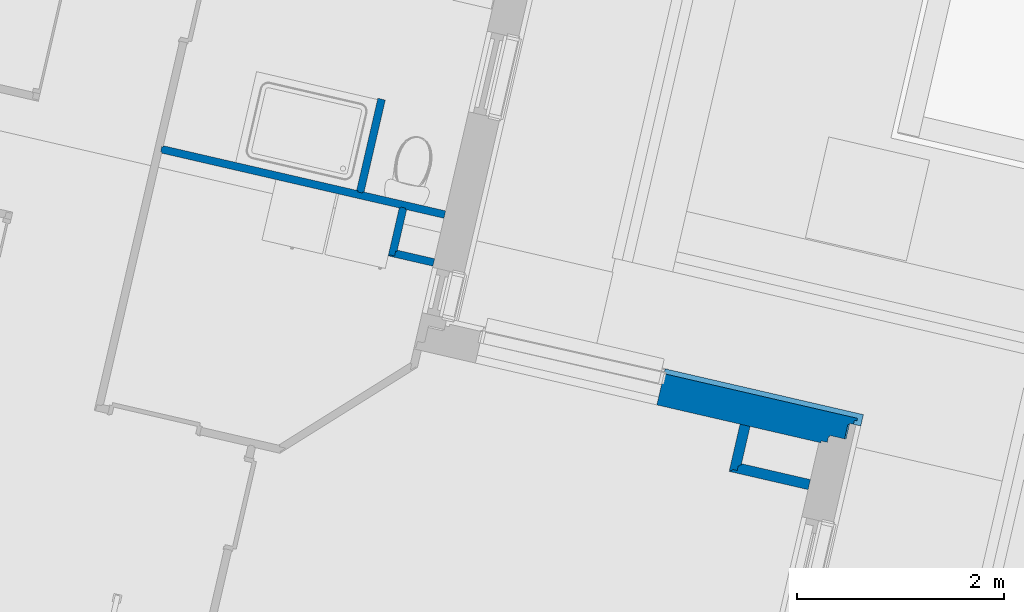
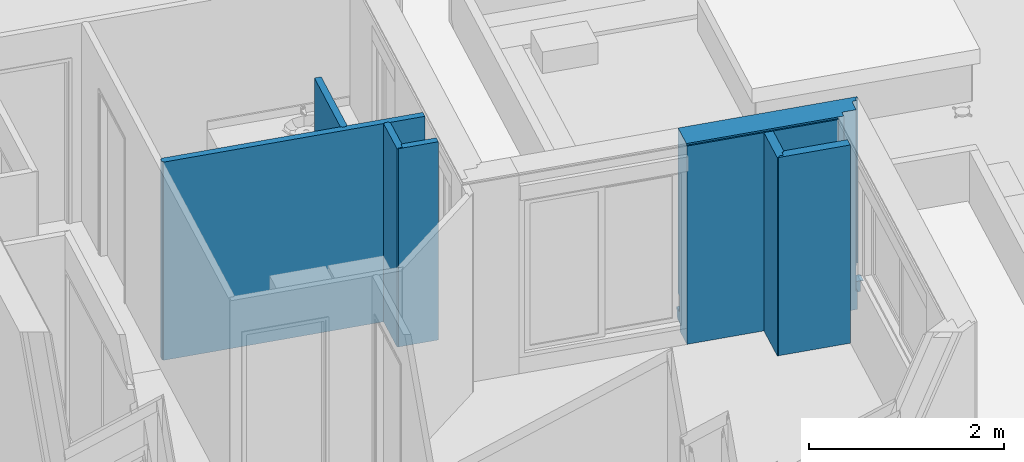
# One storey, part 10 of 47: 7 walls.
"""IFC2X3 building model written with IfcOpenShell, lengths in metres."""

import ifcopenshell
import ifcopenshell.guid

model = None  # the IFC model being written
_history = None  # IfcOwnerHistory: only IFC2X3 demands one
_inside = {}  # id of a spatial element -> (the spatial element, [elements in it])
_under = {}  # id of a project, library or spatial element -> (it, [spatial elements below it])
_declared = {}  # id of a project -> (the project, [libraries it declares])
_typed = {}  # id of a type object -> (the type object, [elements of that type])
_made_of = {}  # id of a material, layer set ... -> (it, [elements and type objects made of it])


def new_model(schema):
    """Start an empty IFC model of exactly this schema.

    Asked for "IFC4X3", IfcOpenShell would pick the latest addendum, in which some entities
    have other attributes; the version numbers below select the first issue.
    IFC2X3 requires an IfcOwnerHistory on every rooted entity: one is made here for all.
    """
    global model, _history
    if schema == "IFC4X3":
        model = ifcopenshell.file(schema_version=(4, 3, 0, 0))
    else:
        model = ifcopenshell.file(schema=schema)
    _inside.clear()
    _under.clear()
    _declared.clear()
    _typed.clear()
    _made_of.clear()
    _history = None
    if model.schema == "IFC2X3":
        org = make("IfcOrganization", Name="unknown")
        user = make(
            "IfcPersonAndOrganization",
            ThePerson=make("IfcPerson", FamilyName="unknown"),
            TheOrganization=org,
        )
        app = make(
            "IfcApplication",
            ApplicationDeveloper=org,
            Version="unknown",
            ApplicationFullName="unknown",
            ApplicationIdentifier="unknown",
        )
        _history = make(
            "IfcOwnerHistory",
            OwningUser=user,
            OwningApplication=app,
            ChangeAction="ADDED",
            CreationDate=0,
        )
    return model


def make(cls, **values):
    """One entity of the class cls with the attributes given. An attribute that is None is left unset."""
    return model.create_entity(
        cls, **{name: value for name, value in values.items() if value is not None}
    )


def entity(cls, *values):
    """Any entity or typed value of the class cls, its attributes in the order of the schema. None: left unset."""
    e = model.create_entity(cls)
    for i, value in enumerate(values):
        if value is not None:
            e[i] = value
    return e


def rooted(cls, **values):
    """An entity with a GlobalId (a new one), such as an element, a storey or a relation."""
    return make(cls, GlobalId=ifcopenshell.guid.new(), OwnerHistory=_history, **values)


def si_unit(unit_type, name, prefix=None):
    """IfcSIUnit, for example si_unit("LENGTHUNIT", "METRE", prefix="MILLI")."""
    return make("IfcSIUnit", UnitType=unit_type, Prefix=prefix, Name=name)


def converted_unit(unit_type, name, factor, base, dimensions=None, offset=None):
    """IfcConversionBasedUnit, such as the inch: factor (a typed value) times the base unit."""
    return make(
        "IfcConversionBasedUnit"
        if offset is None
        else "IfcConversionBasedUnitWithOffset",
        ConversionOffset=offset,
        Dimensions=None
        if dimensions is None
        else entity("IfcDimensionalExponents", *dimensions),
        UnitType=unit_type,
        Name=name,
        ConversionFactor=make(
            "IfcMeasureWithUnit", ValueComponent=factor, UnitComponent=base
        ),
    )


def derived_unit(unit_type, elements):
    """IfcDerivedUnit: a product of units, each with its exponent."""
    return make(
        "IfcDerivedUnit",
        Elements=[
            make("IfcDerivedUnitElement", Unit=unit, Exponent=power)
            for unit, power in elements
        ],
        UnitType=unit_type,
    )


def money_unit(currency):
    """IfcMonetaryUnit."""
    return make("IfcMonetaryUnit", Currency=currency)


def assignment(units):
    """IfcUnitAssignment: the units of a project."""
    return None if units is None else make("IfcUnitAssignment", Units=units)


def point(xyz):
    """IfcCartesianPoint."""
    return None if xyz is None else make("IfcCartesianPoint", Coordinates=xyz)


def direction(xyz):
    """IfcDirection."""
    return None if xyz is None else make("IfcDirection", DirectionRatios=xyz)


def frame(location, z_axis=None, x_axis=None):
    """IfcAxis2Placement3D, a coordinate frame: its origin and axes. An axis left out is left unset."""
    return make(
        "IfcAxis2Placement3D",
        Location=point(location),
        Axis=direction(z_axis),
        RefDirection=direction(x_axis),
    )


def origin_with_axes():
    """The frame at (0, 0, 0) with the z axis (0, 0, 1) and the x axis (1, 0, 0) written out."""
    return frame((0.0, 0.0, 0.0), z_axis=(0.0, 0.0, 1.0), x_axis=(1.0, 0.0, 0.0))


def place(relative_to, where):
    """IfcLocalPlacement: puts the frame where relative to a parent placement (None: the world)."""
    return make(
        "IfcLocalPlacement", PlacementRelTo=relative_to, RelativePlacement=where
    )


def context(
    kind, dimensions, precision=None, world=None, true_north=None, identifier=None
):
    """IfcGeometricRepresentationContext, for example the 3D "Model" context."""
    return make(
        "IfcGeometricRepresentationContext",
        ContextIdentifier=identifier,
        ContextType=kind,
        CoordinateSpaceDimension=dimensions,
        Precision=precision,
        WorldCoordinateSystem=world,
        TrueNorth=true_north,
    )


def subcontext(parent, identifier, kind, view, scale=None):
    """IfcGeometricRepresentationSubContext, for example "Body" below "Model"."""
    return make(
        "IfcGeometricRepresentationSubContext",
        ContextIdentifier=identifier,
        ContextType=kind,
        ParentContext=parent,
        TargetScale=scale,
        TargetView=view,
    )


def project(units=None, contexts=None):
    """IfcProject with its units and contexts."""
    return rooted(
        "IfcProject",
        Name="project",
        RepresentationContexts=contexts,
        UnitsInContext=assignment(units),
    )


def spatial(cls, under=None, at=None, **own):
    """A site, building, storey or space (cls), placed at a placement, below another one or the project."""
    s = rooted(cls, ObjectPlacement=at, **own)
    if under is not None:
        _under.setdefault(under.id(), (under, []))[1].append(s)
    return s


def faces_of(points, faces, orient=None, outer=None):
    """IfcFace entities. A face is a list of loops; a loop is a list of indices into points, from 0.

    orient and outer hold one flag for each loop. By default every Orientation is true, the
    first loop of a face is its IfcFaceOuterBound and the others are IfcFaceBound.
    """
    made = []
    for i, loops in enumerate(faces):
        bounds = []
        for j, loop in enumerate(loops):
            is_outer = j == 0 if outer is None else outer[i][j]
            bounds.append(
                make(
                    "IfcFaceOuterBound" if is_outer else "IfcFaceBound",
                    Bound=make("IfcPolyLoop", Polygon=[points[k] for k in loop]),
                    Orientation=True if orient is None else orient[i][j],
                )
            )
        made.append(make("IfcFace", Bounds=bounds))
    return made


def faceted_brep(points, faces, orient=None, outer=None, voids=None):
    """IfcFacetedBrep: a solid bounded by flat faces; with voids (closed shells), ...WithVoids."""
    shared = [point(p) for p in points]
    hull = make("IfcClosedShell", CfsFaces=faces_of(shared, faces, orient, outer))
    if voids is None:
        return make("IfcFacetedBrep", Outer=hull)
    return make(
        "IfcFacetedBrepWithVoids",
        Outer=hull,
        Voids=[
            make(cls, CfsFaces=faces_of(shared, fs, o, b)) for cls, fs, o, b in voids
        ],
    )


def shape(context_of_items, identifier, shape_type, items):
    """IfcShapeRepresentation: the items that make up one representation, for example the "Body"."""
    return make(
        "IfcShapeRepresentation",
        ContextOfItems=context_of_items,
        RepresentationIdentifier=identifier,
        RepresentationType=shape_type,
        Items=items,
    )


def material(Name=None, Category=None):
    """IfcMaterial."""
    return make("IfcMaterial", Name=Name, Category=Category)


def material_list(materials):
    """IfcMaterialList."""
    return make("IfcMaterialList", Materials=materials)


def made_of(thing, what):
    """Note that an element or type object is made of a material, layer set ...; save() writes the relation."""
    if what is not None:
        _made_of.setdefault(what.id(), (what, []))[1].append(thing)
    return thing


def type_object(cls, material=None, **own):
    """A type object (cls), such as IfcWallType, which elements share."""
    return made_of(rooted(cls, **own), material)


def element(
    cls,
    number,
    at=None,
    inside=None,
    cuts=None,
    type_object=None,
    material=None,
    context=None,
    identifier="Body",
    shape_type=None,
    held_by="IfcProductDefinitionShape",
    body=None,
    shapes=None,
    **own,
):
    """One element of the class cls, such as IfcWall. Its Tag is "e" and its number.

    at: its placement. inside: the storey or other place that contains it. cuts: it is an
    opening in that element (IfcRelVoidsElement). A single representation is given by context,
    identifier, shape_type and body (its items); several are given by shapes. held_by: the class
    of the entity that holds the representations. save() writes the other relations.
    """
    e = rooted(cls, Tag="e%d" % number, ObjectPlacement=at, **own)
    if body is not None:
        shapes = [shape(context, identifier, shape_type, body)]
    if shapes is not None:
        e.Representation = make(held_by, Representations=shapes)
    if inside is not None:
        _inside.setdefault(inside.id(), (inside, []))[1].append(e)
    if cuts is not None:
        rooted(
            "IfcRelVoidsElement", RelatingBuildingElement=cuts, RelatedOpeningElement=e
        )
    if type_object is not None:
        _typed.setdefault(type_object.id(), (type_object, []))[1].append(e)
    return made_of(e, material)


def aggregate(whole, parts):
    """IfcRelAggregates: a whole, such as a stair, and the parts it consists of."""
    return rooted("IfcRelAggregates", RelatingObject=whole, RelatedObjects=parts)


def save(model, path):
    """Write the relations noted so far, then the file.

    IfcRelAggregates (storeys below a building ...), IfcRelContainedInSpatialStructure (elements
    in a storey), IfcRelDefinesByType, IfcRelAssociatesMaterial and IfcRelDeclares: one each for
    every whole, place, type object, material and project.
    """
    for whole, parts in _under.values():
        aggregate(whole, parts)
    for where, things in _inside.values():
        rooted(
            "IfcRelContainedInSpatialStructure",
            RelatedElements=things,
            RelatingStructure=where,
        )
    for kind, things in _typed.values():
        rooted("IfcRelDefinesByType", RelatedObjects=things, RelatingType=kind)
    for what, things in _made_of.values():
        rooted("IfcRelAssociatesMaterial", RelatedObjects=things, RelatingMaterial=what)
    for by, libraries in _declared.values():
        rooted("IfcRelDeclares", RelatingContext=by, RelatedDefinitions=libraries)
    model.write(path)


model = new_model("IFC2X3")

# Units and contexts
model_context = context("Model", 3, precision=1e-05, world=origin_with_axes(), true_north=direction((0.0, 1.0)))
body_context = subcontext(model_context, "Body", "Model", "MODEL_VIEW")
ifc_project = project(units=[si_unit("LENGTHUNIT", "METRE"), si_unit("AREAUNIT", "SQUARE_METRE"), si_unit("VOLUMEUNIT", "CUBIC_METRE"), converted_unit("PLANEANGLEUNIT", "DEGREE", entity("IfcPlaneAngleMeasure", 0.0174532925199), si_unit("PLANEANGLEUNIT", "RADIAN"), dimensions=[0, 0, 0, 0, 0, 0, 0]), si_unit("SOLIDANGLEUNIT", "STERADIAN"), money_unit("EUR"), converted_unit("TIMEUNIT", "Year", entity("IfcTimeMeasure", 31556926.0), si_unit("TIMEUNIT", "SECOND"), dimensions=[0, 0, 1, 0, 0, 0, 0]), si_unit("MASSUNIT", "GRAM", prefix="KILO"), si_unit("THERMODYNAMICTEMPERATUREUNIT", "DEGREE_CELSIUS"), si_unit("LUMINOUSINTENSITYUNIT", "LUMEN"), si_unit("ENERGYUNIT", "JOULE", prefix="MEGA"), derived_unit("THERMALCONDUCTANCEUNIT", [(si_unit("POWERUNIT", "WATT"), 1), (si_unit("LENGTHUNIT", "METRE"), -1), (si_unit("THERMODYNAMICTEMPERATUREUNIT", "KELVIN"), -1)]), derived_unit("SPECIFICHEATCAPACITYUNIT", [(si_unit("ENERGYUNIT", "JOULE"), 1), (si_unit("MASSUNIT", "GRAM", prefix="KILO"), -1), (si_unit("THERMODYNAMICTEMPERATUREUNIT", "KELVIN"), -1)]), derived_unit("MASSDENSITYUNIT", [(si_unit("MASSUNIT", "GRAM", prefix="KILO"), 1), (si_unit("VOLUMEUNIT", "CUBIC_METRE"), -1)])], contexts=[model_context])

# Site, building, storey
site_placement = place(None, origin_with_axes())
site = spatial("IfcSite", under=ifc_project, at=site_placement, Name="Site", CompositionType="ELEMENT")
building_placement = place(site_placement, origin_with_axes())
building = spatial("IfcBuilding", under=site, at=building_placement, Name="Bâtiment", CompositionType="ELEMENT")
storey_placement = place(building_placement, frame((0.0, 0.0, 10.88), z_axis=(0.0, 0.0, 1.0), x_axis=(1.0, 0.0, 0.0)))
storey = spatial("IfcBuildingStorey", under=building, at=storey_placement, Name="R+4", CompositionType="ELEMENT", Elevation=10.88)

# Walls
ifc_material_1 = material(Name="Finition int - Plaque de plâtre")
ifc_material_2 = material(Name="Isolation - Laine de roche")
ifc_material_list_1 = material_list([ifc_material_1, ifc_material_2, ifc_material_1])
wall_type_1 = type_object("IfcWallType", Name="3 - Cloison 72mm Placostil 74", PredefinedType="USERDEFINED")
wall_1_placement = place(storey_placement, frame((-17.0540651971, -6.24685713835, 0.0), z_axis=(0.0, 0.0, 1.0), x_axis=(0.97438734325, -0.224876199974, 0.0)))
element("IfcWall", 1, at=wall_1_placement, inside=storey, type_object=wall_type_1, material=ifc_material_list_1, Name="Cloison Placostil 72/48", ObjectType="PARTITIONING", context=body_context, shape_type="Brep", body=[
    faceted_brep([(2.00472929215, -0.013, 0.02), (2.00472929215, 0.0, 0.02), (2.00472929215, 0.0, 2.5), (2.00472929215, -0.013, 2.5), (0.0740000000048, 0.0, 0.02), (0.0740000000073, -0.013, 0.02), (0.0740000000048, 0.0, 2.5), (0.0740000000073, -0.013, 2.5)], [[[0, 1, 2, 3]], [[4, 1, 0, 5]], [[1, 4, 6, 2]], [[3, 2, 6, 7]], [[5, 0, 3, 7]], [[4, 5, 7, 6]]]),
    faceted_brep([(2.87531037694, -0.013, 0.02), (2.87531037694, 0.0, 0.02), (2.87531037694, 0.0, 2.5), (2.87531037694, -0.013, 2.5), (2.05272929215, 0.0, 0.02), (2.05272929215, -0.013, 0.02), (2.05272929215, 0.0, 2.5), (2.05272929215, -0.013, 2.5)], [[[0, 1, 2, 3]], [[4, 1, 0, 5]], [[1, 4, 6, 2]], [[7, 3, 2, 6]], [[5, 0, 3, 7]], [[4, 5, 7, 6]]]),
    faceted_brep([(2.87531037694, -0.061, 0.02), (2.87531037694, -0.013, 0.02), (2.87531037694, -0.013, 2.5), (2.87531037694, -0.061, 2.5), (0.0610000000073, -0.013, 0.02), (0.0610000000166, -0.061, 0.02), (0.0610000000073, -0.013, 2.5), (0.0610000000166, -0.061, 2.5)], [[[0, 1, 2, 3]], [[4, 1, 0, 5]], [[1, 4, 6, 2]], [[7, 3, 2, 6]], [[5, 0, 3, 7]], [[4, 5, 7, 6]]]),
    faceted_brep([(2.87531037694, -0.074, 0.02), (2.87531037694, -0.061, 0.02), (2.87531037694, -0.061, 2.5), (2.87531037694, -0.074, 2.5), (2.49231037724, -0.061, 0.02), (2.49231037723, -0.074, 0.02), (2.49231037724, -0.061, 2.5), (2.49231037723, -0.074, 2.5)], [[[0, 1, 2, 3]], [[4, 1, 0, 5]], [[1, 4, 6, 2]], [[7, 3, 2, 6]], [[5, 0, 3, 7]], [[4, 5, 7, 6]]]),
    faceted_brep([(2.44431037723, -0.074, 0.02), (2.44431037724, -0.061, 0.02), (2.44431037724, -0.061, 2.5), (2.44431037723, -0.074, 2.5), (0.0740000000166, -0.061, 0.02), (0.0740000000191, -0.074, 0.02), (0.0740000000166, -0.061, 2.5), (0.0740000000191, -0.074, 2.5)], [[[0, 1, 2, 3]], [[4, 1, 0, 5]], [[1, 4, 6, 2]], [[3, 2, 6, 7]], [[5, 0, 3, 7]], [[4, 5, 7, 6]]]),
])
wall_2_placement = place(storey_placement, frame((-15.1133493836, -6.69474965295, 0.0), z_axis=(0.0, 0.0, 1.0), x_axis=(0.224876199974, 0.97438734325, 0.0)))
element("IfcWall", 2, at=wall_2_placement, inside=storey, type_object=wall_type_1, material=ifc_material_list_1, Name="Cloison Placostil 72/48", ObjectType="PARTITIONING", context=body_context, shape_type="Brep", body=[
    faceted_brep([(0.0, -0.013, 0.02), (0.913000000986, -0.013, 0.02), (0.913000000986, -0.013, 2.5), (0.0, -0.013, 2.5), (0.913000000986, 0.0, 0.02), (0.0, 0.0, 0.02), (0.913000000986, 0.0, 2.5), (0.0, 0.0, 2.5)], [[[0, 1, 2, 3]], [[4, 1, 0, 5]], [[1, 4, 6, 2]], [[3, 2, 6, 7]], [[5, 0, 3, 7]], [[4, 5, 7, 6]]]),
    faceted_brep([(-0.013, -0.061, 0.02), (0.913000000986, -0.061, 0.02), (0.913000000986, -0.061, 2.5), (-0.013, -0.061, 2.5), (0.913000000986, -0.013, 0.02), (-0.013, -0.013, 0.02), (0.913000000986, -0.013, 2.5), (-0.013, -0.013, 2.5)], [[[0, 1, 2, 3]], [[4, 1, 0, 5]], [[1, 4, 6, 2]], [[3, 2, 6, 7]], [[5, 0, 3, 7]], [[4, 5, 7, 6]]]),
    faceted_brep([(0.0, -0.074, 0.02), (0.913000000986, -0.074, 0.02), (0.913000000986, -0.074, 2.5), (0.0, -0.074, 2.5), (0.913000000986, -0.061, 0.02), (0.0, -0.061, 0.02), (0.913000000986, -0.061, 2.5), (0.0, -0.061, 2.5)], [[[0, 1, 2, 3]], [[4, 1, 0, 5]], [[1, 4, 6, 2]], [[3, 2, 6, 7]], [[5, 0, 3, 7]], [[4, 5, 7, 6]]]),
])
wall_type_2 = type_object("IfcWallType", Name="3 - Cloison Gaine Technique 72mm 74", PredefinedType="USERDEFINED")
wall_3_placement = place(storey_placement, frame((-14.6850271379, -6.79360097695, 0.0), z_axis=(0.0, 0.0, 1.0), x_axis=(-0.224876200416, -0.974387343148, 0.0)))
element("IfcWall", 3, at=wall_3_placement, inside=storey, type_object=wall_type_2, material=ifc_material_list_1, Name="Cloison Placostil 72/48", ObjectType="PARTITIONING", context=body_context, shape_type="Brep", body=[
    faceted_brep([(0.0739999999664, 0.074, 0.02), (0.0739999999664, 0.074, 2.5), (0.487843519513, 0.074, 2.5), (0.487843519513, 0.074, 0.02), (0.0739999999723, 0.061, 0.02), (0.0739999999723, 0.061, 2.5), (0.487843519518, 0.061, 2.5), (0.487843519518, 0.061, 0.02)], [[[0, 1, 2, 3]], [[0, 4, 5, 1]], [[6, 2, 1, 5]], [[7, 3, 2, 6]], [[4, 0, 3, 7]], [[4, 7, 6, 5]]]),
    faceted_brep([(0.0609999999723, 0.061, 0.02), (0.0609999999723, 0.061, 2.5), (0.535843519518, 0.061, 2.5), (0.535843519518, 0.061, 0.02), (0.0609999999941, 0.013, 0.02), (0.0609999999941, 0.013, 2.5), (0.53584351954, 0.013, 2.5), (0.53584351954, 0.013, 0.02)], [[[0, 1, 2, 3]], [[0, 4, 5, 1]], [[6, 2, 1, 5]], [[7, 3, 2, 6]], [[4, 0, 3, 7]], [[4, 7, 6, 5]]]),
    faceted_brep([(0.0739999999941, 0.013, 0.02), (0.0739999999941, 0.013, 2.5), (0.54884351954, 0.013, 2.5), (0.54884351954, 0.013, 0.02), (0.074, 0.0, 0.02), (0.074, 0.0, 2.5), (0.548843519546, 0.0, 2.5), (0.548843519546, 0.0, 0.02)], [[[0, 1, 2, 3]], [[0, 4, 5, 1]], [[6, 2, 1, 5]], [[7, 3, 2, 6]], [[4, 0, 3, 7]], [[4, 7, 6, 5]]]),
])
wall_4_placement = place(storey_placement, frame((-14.8084489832, -7.32838715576, 0.0), z_axis=(0.0, 0.0, 1.0), x_axis=(0.97438734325, -0.224876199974, 0.0)))
element("IfcWall", 4, at=wall_4_placement, inside=storey, type_object=wall_type_2, material=ifc_material_list_1, Name="Cloison Placostil 72/48", ObjectType="PARTITIONING", context=body_context, shape_type="Brep", body=[
    faceted_brep([(0.443999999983, 0.061, 0.02), (0.443999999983, 0.074, 0.02), (0.443999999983, 0.074, 2.5), (0.443999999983, 0.061, 2.5), (0.0740000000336, 0.074, 0.02), (0.0740000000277, 0.061, 0.02), (0.0740000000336, 0.074, 2.5), (0.0740000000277, 0.061, 2.5)], [[[0, 1, 2, 3]], [[4, 1, 0, 5]], [[1, 4, 6, 2]], [[7, 3, 2, 6]], [[5, 0, 3, 7]], [[4, 5, 7, 6]]]),
    faceted_brep([(0.443999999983, 0.013, 0.02), (0.443999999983, 0.061, 0.02), (0.443999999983, 0.061, 2.5), (0.443999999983, 0.013, 2.5), (0.0610000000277, 0.061, 0.02), (0.0610000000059, 0.013, 0.02), (0.0610000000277, 0.061, 2.5), (0.0610000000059, 0.013, 2.5)], [[[0, 1, 2, 3]], [[4, 1, 0, 5]], [[1, 4, 6, 2]], [[7, 3, 2, 6]], [[5, 0, 3, 7]], [[4, 5, 7, 6]]]),
    faceted_brep([(0.443999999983, 0.0, 0.02), (0.443999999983, 0.013, 0.02), (0.443999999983, 0.013, 2.5), (0.443999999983, 0.0, 2.5), (0.0130000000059, 0.013, 0.02), (0.013, 0.0, 0.02), (0.0130000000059, 0.013, 2.5), (0.013, 0.0, 2.5)], [[[0, 1, 2, 3]], [[4, 1, 0, 5]], [[1, 4, 6, 2]], [[7, 3, 2, 6]], [[5, 0, 3, 7]], [[4, 5, 7, 6]]]),
])
ifc_material_list_2 = material_list([ifc_material_1, ifc_material_1, ifc_material_2, ifc_material_1, ifc_material_1])
wall_type_3 = type_object("IfcWallType", Name="3 - Cloison Gaine Technique 98mm 100", PredefinedType="USERDEFINED")
wall_5_placement = place(storey_placement, frame((-11.5126229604, -9.41215073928, 0.0), z_axis=(0.0, 0.0, 1.0), x_axis=(0.974387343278, -0.224876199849, 0.0)))
element("IfcWall", 5, at=wall_5_placement, inside=storey, type_object=wall_type_3, material=ifc_material_list_2, Name="Cloison 98 isolée", ObjectType="PARTITIONING", context=body_context, shape_type="Brep", body=[
    faceted_brep([(0.783407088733, 0.087, 0.02), (0.783407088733, 0.1, 0.02), (0.783407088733, 0.1, 2.5), (0.783407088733, 0.087, 2.5), (0.1, 0.1, 0.02), (0.1, 0.087, 0.02), (0.1, 0.1, 2.5), (0.1, 0.087, 2.5)], [[[0, 1, 2, 3]], [[4, 1, 0, 5]], [[1, 4, 6, 2]], [[7, 3, 2, 6]], [[5, 0, 3, 7]], [[4, 5, 7, 6]]]),
    faceted_brep([(0.783407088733, 0.074, 0.02), (0.783407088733, 0.087, 0.02), (0.783407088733, 0.087, 2.5), (0.783407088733, 0.074, 2.5), (0.087, 0.087, 0.02), (0.087, 0.074, 0.02), (0.087, 0.087, 2.5), (0.087, 0.074, 2.5)], [[[0, 1, 2, 3]], [[4, 1, 0, 5]], [[1, 4, 6, 2]], [[7, 3, 2, 6]], [[5, 0, 3, 7]], [[4, 5, 7, 6]]]),
    faceted_brep([(0.783407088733, 0.026, 0.02), (0.783407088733, 0.074, 0.02), (0.783407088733, 0.074, 2.5), (0.783407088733, 0.026, 2.5), (0.074, 0.074, 0.02), (0.074, 0.026, 0.02), (0.074, 0.074, 2.5), (0.074, 0.026, 2.5)], [[[0, 1, 2, 3]], [[4, 1, 0, 5]], [[1, 4, 6, 2]], [[7, 3, 2, 6]], [[5, 0, 3, 7]], [[4, 5, 7, 6]]]),
    faceted_brep([(0.783407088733, 0.013, 0.02), (0.783407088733, 0.026, 0.02), (0.783407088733, 0.026, 2.5), (0.783407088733, 0.013, 2.5), (0.026, 0.026, 0.02), (0.026, 0.013, 0.02), (0.026, 0.026, 2.5), (0.026, 0.013, 2.5)], [[[0, 1, 2, 3]], [[4, 1, 0, 5]], [[1, 4, 6, 2]], [[7, 3, 2, 6]], [[5, 0, 3, 7]], [[4, 5, 7, 6]]]),
    faceted_brep([(0.783407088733, 0.0, 0.02), (0.783407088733, 0.013, 0.02), (0.783407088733, 0.013, 2.5), (0.783407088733, 0.0, 2.5), (0.013, 0.013, 0.02), (0.013, 0.0, 0.02), (0.013, 0.013, 2.5), (0.013, 0.0, 2.5)], [[[0, 1, 2, 3]], [[4, 1, 0, 5]], [[1, 4, 6, 2]], [[7, 3, 2, 6]], [[5, 0, 3, 7]], [[4, 5, 7, 6]]]),
])
wall_6_placement = place(storey_placement, frame((-11.4070995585, -8.95491841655, 0.0), z_axis=(0.0, 0.0, 1.0), x_axis=(-0.224876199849, -0.974387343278, 0.0)))
element("IfcWall", 6, at=wall_6_placement, inside=storey, type_object=wall_type_3, material=ifc_material_list_2, Name="Cloison 98 isolée", ObjectType="PARTITIONING", context=body_context, shape_type="Brep", body=[
    faceted_brep([(0.382251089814, 0.1, 0.02), (0.0, 0.1, 0.02), (0.0, 0.1, 2.5), (0.382251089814, 0.1, 2.5), (0.0, 0.087, 0.02), (0.382251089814, 0.087, 0.02), (0.0, 0.087, 2.5), (0.382251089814, 0.087, 2.5)], [[[0, 1, 2, 3]], [[4, 1, 0, 5]], [[1, 4, 6, 2]], [[7, 3, 2, 6]], [[5, 0, 3, 7]], [[4, 5, 7, 6]]]),
    faceted_brep([(0.395251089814, 0.087, 0.02), (0.0, 0.087, 0.02), (0.0, 0.087, 2.5), (0.395251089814, 0.087, 2.5), (0.0, 0.074, 0.02), (0.395251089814, 0.074, 0.02), (0.0, 0.074, 2.5), (0.395251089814, 0.074, 2.5)], [[[0, 1, 2, 3]], [[4, 1, 0, 5]], [[1, 4, 6, 2]], [[7, 3, 2, 6]], [[5, 0, 3, 7]], [[4, 5, 7, 6]]]),
    faceted_brep([(0.443251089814, 0.074, 0.02), (0.0, 0.074, 0.02), (0.0, 0.074, 2.5), (0.443251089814, 0.074, 2.5), (0.0, 0.026, 0.02), (0.443251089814, 0.026, 0.02), (0.0, 0.026, 2.5), (0.443251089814, 0.026, 2.5)], [[[0, 1, 2, 3]], [[4, 1, 0, 5]], [[1, 4, 6, 2]], [[7, 3, 2, 6]], [[5, 0, 3, 7]], [[4, 5, 7, 6]]]),
    faceted_brep([(0.456251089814, 0.026, 0.02), (0.0, 0.026, 0.02), (0.0, 0.026, 2.5), (0.456251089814, 0.026, 2.5), (0.0, 0.013, 0.02), (0.456251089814, 0.013, 0.02), (0.0, 0.013, 2.5), (0.456251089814, 0.013, 2.5)], [[[0, 1, 2, 3]], [[4, 1, 0, 5]], [[1, 4, 6, 2]], [[7, 3, 2, 6]], [[5, 0, 3, 7]], [[4, 5, 7, 6]]]),
    faceted_brep([(0.469251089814, 0.013, 0.02), (0.0, 0.013, 0.02), (0.0, 0.013, 2.5), (0.469251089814, 0.013, 2.5), (0.0, 0.0, 0.02), (0.469251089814, 0.0, 0.02), (0.0, 0.0, 2.5), (0.469251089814, 0.0, 2.5)], [[[0, 1, 2, 3]], [[4, 1, 0, 5]], [[1, 4, 6, 2]], [[7, 3, 2, 6]], [[5, 0, 3, 7]], [[4, 5, 7, 6]]]),
])
ifc_material_3 = material(Name="Métal - Aluminium")
ifc_material_4 = material(Name="Etanchéité - Bitume")
ifc_material_5 = material(Name="Isolation - Polyuréthane (extérieur)")
ifc_material_6 = material(Name="Finition ext - Bardage bois")
ifc_material_7 = material(Name="Bois - Lattage")
ifc_material_8 = material(Name="Bois - OSB 02")
ifc_material_9 = material(Name="Béton")
ifc_material_10 = material(Name="Isolation - Laine de verre")
ifc_material_11 = material(Name="Bois - Massif 01")
ifc_material_12 = material(Name="Etanchéité - Pare-vapeur")
ifc_material_list_3 = material_list([ifc_material_3, ifc_material_4, ifc_material_5, ifc_material_6, ifc_material_7, ifc_material_8, ifc_material_9, ifc_material_10, ifc_material_11, ifc_material_11, ifc_material_12, ifc_material_10, ifc_material_1])
wall_type_4 = type_object("IfcWallType", Name="Mur ossature Bois avec talon béton 358 x 2500", PredefinedType="ELEMENTEDWALL")
wall_7_placement = place(storey_placement, frame((-12.141588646, -8.46725905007, 0.02), z_axis=(0.0, 0.0, 1.0), x_axis=(0.974387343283, -0.224876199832, 0.0)))
element("IfcWall", 7, at=wall_7_placement, inside=storey, type_object=wall_type_4, material=ifc_material_list_3, Name="M_Ext-009", ObjectType="ELEMENTEDWALL", context=body_context, shape_type="Brep", body=[
    faceted_brep([(1.85874695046, -0.06, 0.234999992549), (1.96674694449, -0.06, 0.234999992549), (1.96674694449, 0.048, 0.234999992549), (0.0, 0.048, 0.235), (0.0, -0.06, 0.235), (1.85874695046, -0.065, 0.234999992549), (1.96674694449, -0.065, 0.234999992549), (1.96674694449, 0.048, 0.2), (1.96674694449, -0.065, 0.23), (1.96674694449, 0.0279999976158, 0.230000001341), (1.96674694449, 0.043, 0.23), (1.96674694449, 0.043, 0.2), (0.0, 0.048, 0.2), (0.0, -0.065, 0.23), (0.0, -0.065, 0.435), (0.0, -0.06, 0.435), (0.0, 0.043, 0.2), (0.0, 0.043, 0.23), (0.0, 0.0279999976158, 0.230000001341), (1.85874695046, -0.06, 0.434999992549), (1.85874695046, -0.065, 0.434999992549)], [[[0, 1, 2, 3, 4]], [[1, 0, 5, 6]], [[7, 2, 1, 6, 8, 9, 10, 11]], [[2, 7, 12, 3]], [[13, 14, 15, 4, 3, 12, 16, 17, 18]], [[19, 0, 4, 15]], [[0, 19, 20, 5]], [[5, 20, 14, 13, 8, 6]], [[9, 8, 13, 18]], [[10, 9, 18, 17]], [[11, 10, 17, 16]], [[7, 11, 16, 12]], [[20, 19, 15, 14]]]),
    faceted_brep([(1.94674695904, 0.0180000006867, 0.109999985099), (1.94674695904, 0.0279999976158, 0.109999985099), (1.94674695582, 0.0279999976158, 0.2), (1.94674695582, 0.0180000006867, 0.2), (0.0, 0.0279999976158, 0.109999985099), (1.93674693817, 0.0180000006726, 0.109999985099), (0.0, 0.0179999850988, 0.109999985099), (0.0, 0.0279999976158, 0.230000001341), (1.94674695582, 0.0279999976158, 0.230000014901), (1.94674695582, 0.0180000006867, 0.230000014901), (0.0, 0.0180000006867, 0.230000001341)], [[[0, 1, 2, 3]], [[4, 1, 0, 5, 6]], [[1, 4, 7, 8, 2]], [[3, 2, 8, 9]], [[5, 0, 3, 9, 10, 6]], [[4, 6, 10, 7]], [[10, 9, 8, 7]]]),
    faceted_brep([(1.93674694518, -0.0619999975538, 0.0999999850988), (1.93674694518, 0.0180000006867, 0.0999999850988), (1.93674694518, 0.0180000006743, 0.2), (1.93674694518, -0.0619999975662, 0.2), (0.0, 0.0180000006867, 0.0999999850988), (1.85674694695, -0.0619999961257, 0.0999999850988), (0.0, -0.0619999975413, 0.0999999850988), (0.0, 0.0180000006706, 0.230000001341), (1.93674694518, 0.0180000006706, 0.230000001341), (1.93674694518, -0.0619999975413, 0.230000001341), (0.0, -0.0619999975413, 0.230000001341)], [[[0, 1, 2, 3]], [[4, 1, 0, 5, 6]], [[1, 4, 7, 8, 2]], [[3, 2, 8, 9]], [[5, 0, 3, 9, 10, 6]], [[4, 6, 10, 7]], [[10, 9, 8, 7]]]),
    faceted_brep([(1.918746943, -0.025, 2.5), (1.918746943, 0.0, 2.5), (0.0, 0.0, 2.5), (0.0, -0.025, 2.5), (1.918746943, 0.0, 0.434999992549), (1.918746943, -0.025, 0.434999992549), (0.0, 0.0, 0.435), (0.0, -0.025, 0.435)], [[[0, 1, 2, 3]], [[4, 1, 0, 5]], [[1, 4, 6, 2]], [[7, 3, 2, 6]], [[5, 0, 3, 7]], [[4, 5, 7, 6]]]),
    faceted_brep([(1.89374694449, -0.0649999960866, 2.5), (1.89374694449, -0.024999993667, 2.5), (0.0, -0.024999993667, 2.5), (0.0, -0.0649999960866, 2.5), (1.89374694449, -0.024999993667, 2.455), (1.89374694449, -0.0649999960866, 2.455), (1.89374694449, -0.024999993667, 0.435), (0.0, -0.024999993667, 0.435000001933), (0.0, -0.0649999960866, 0.435000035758), (0.0, -0.0600000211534, 0.435000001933), (1.89374694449, -0.0649999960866, 0.435), (1.89374694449, -0.0600000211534, 0.435)], [[[0, 1, 2, 3]], [[4, 1, 0, 5]], [[1, 4, 6, 7, 2]], [[8, 3, 2, 7, 9]], [[5, 0, 3, 8, 10]], [[4, 5, 10, 11, 6]], [[6, 11, 9, 7]], [[11, 10, 8, 9]]]),
    faceted_brep([(1.85374694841, -0.0770000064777, 2.5), (1.85374694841, -0.065000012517, 2.5), (0.0, -0.065000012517, 2.5), (0.0, -0.0770000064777, 2.5), (1.85374694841, -0.065000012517, 2.455), (1.85374694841, -0.0770000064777, 2.455), (1.85374694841, -0.065000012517, 0.435000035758), (1.85374694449, -0.065000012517, 0.275), (1.85374694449, -0.065000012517, 0.23), (0.0, -0.065000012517, 0.230000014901), (0.0, -0.0770000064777, 0.230000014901), (1.85374694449, -0.0770000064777, 0.23), (1.85374694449, -0.0770000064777, 0.275), (1.85374694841, -0.0770000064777, 0.435000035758)], [[[0, 1, 2, 3]], [[4, 1, 0, 5]], [[1, 4, 6, 7, 8, 9, 2]], [[10, 3, 2, 9]], [[5, 0, 3, 10, 11, 12, 13]], [[4, 5, 13, 6]], [[6, 13, 12, 7]], [[7, 12, 11, 8]], [[8, 11, 10, 9]]]),
    faceted_brep([(0.0, -0.222000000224, 0.23), (1.85674694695, -0.222000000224, 0.230000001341), (1.85674694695, -0.0619999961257, 0.230000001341), (0.0, -0.0619999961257, 0.23), (1.85674694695, -0.222000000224, 0.100000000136), (1.85674694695, -0.222000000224, 0.2), (0.0, -0.222000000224, 0.0), (1.85674694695, -0.222000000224, 0.0), (1.85674694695, -0.0619999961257, 0.2), (1.85674694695, -0.0619999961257, 0.100000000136), (1.85674694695, -0.0619999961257, 0.0), (0.0, -0.0619999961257, 0.0)], [[[0, 1, 2, 3]], [[4, 5, 1, 0, 6, 7]], [[5, 8, 2, 1]], [[3, 2, 8, 9, 10, 11]], [[6, 0, 3, 11]], [[9, 8, 5, 4]], [[11, 10, 7, 6]], [[10, 9, 4, 7]]]),
    faceted_brep([(1.84174693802, -0.221999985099, 2.455), (1.84174693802, -0.077, 2.455), (0.0, -0.077, 2.45499997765), (0.0, -0.221999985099, 2.4550000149), (1.84174693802, -0.077, 0.435), (1.84174693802, -0.221999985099, 0.435), (1.84174693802, -0.077, 0.275), (0.0, -0.077, 0.275), (0.0, -0.221999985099, 0.275), (1.84174693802, -0.221999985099, 0.275)], [[[0, 1, 2, 3]], [[4, 1, 0, 5]], [[1, 4, 6, 7, 2]], [[3, 2, 7, 8]], [[5, 0, 3, 8, 9]], [[4, 5, 9, 6]], [[6, 9, 8, 7]]]),
    faceted_brep([(1.84174693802, -0.222, 0.275), (1.84174693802, -0.077, 0.275), (0.0, -0.077, 0.275), (0.0, -0.222, 0.275), (1.84174693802, -0.077, 0.230000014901), (1.84174693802, -0.222, 0.230000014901), (0.0, -0.077, 0.23), (0.0, -0.222, 0.23)], [[[0, 1, 2, 3]], [[4, 1, 0, 5]], [[1, 4, 6, 2]], [[2, 6, 7, 3]], [[5, 0, 3, 7]], [[4, 5, 7, 6]]]),
    faceted_brep([(1.84174693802, -0.222, 2.5), (1.84174693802, -0.077, 2.5), (0.0, -0.077, 2.5), (0.0, -0.222, 2.5), (1.84174693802, -0.077, 2.455), (1.84174693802, -0.222, 2.455), (0.0, -0.077, 2.455), (0.0, -0.222, 2.455)], [[[0, 1, 2, 3]], [[4, 1, 0, 5]], [[1, 4, 6, 2]], [[2, 6, 7, 3]], [[5, 0, 3, 7]], [[4, 5, 7, 6]]]),
    faceted_brep([(0.0, -0.232000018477, 2.5), (1.69674694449, -0.232000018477, 2.5), (1.69674694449, -0.221999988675, 2.5), (0.0, -0.221999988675, 2.5), (1.6967469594, -0.232000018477, 0.435), (1.69674694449, -0.232000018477, 2.455), (0.0, -0.232000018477, 0.0), (1.69674694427, -0.232000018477, 0.0), (1.69674694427, -0.232000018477, 0.100000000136), (1.69674694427, -0.232000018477, 0.2), (1.69674694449, -0.232000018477, 0.23), (1.6967469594, -0.232000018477, 0.275), (1.69674694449, -0.221999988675, 2.455), (1.6967469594, -0.221999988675, 0.435), (1.6967469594, -0.221999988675, 0.275), (1.69674694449, -0.221999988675, 0.23), (1.69674694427, -0.221999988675, 0.2), (1.69674694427, -0.221999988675, 0.100000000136), (1.69674694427, -0.221999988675, 0.0), (0.0, -0.221999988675, 0.0)], [[[0, 1, 2, 3]], [[4, 5, 1, 0, 6, 7, 8, 9, 10, 11]], [[5, 12, 2, 1]], [[3, 2, 12, 13, 14, 15, 16, 17, 18, 19]], [[6, 0, 3, 19]], [[13, 12, 5, 4]], [[19, 18, 7, 6]], [[18, 17, 8, 7]], [[17, 16, 9, 8]], [[16, 15, 10, 9]], [[15, 14, 11, 10]], [[14, 13, 4, 11]]]),
    faceted_brep([(0.0, -0.292000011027, 2.5), (1.68674692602, -0.292000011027, 2.5), (1.68674692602, -0.232000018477, 2.5), (0.0, -0.232000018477, 2.5), (1.68674692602, -0.292000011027, 0.435), (1.68674692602, -0.292000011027, 2.455), (0.0, -0.292000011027, 0.0), (1.68674692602, -0.292000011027, 0.0), (1.68674692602, -0.292000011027, 0.100000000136), (1.68674692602, -0.292000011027, 0.2), (1.68674692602, -0.292000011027, 0.23), (1.68674692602, -0.292000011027, 0.275), (1.68674692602, -0.232000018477, 2.455), (1.68674692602, -0.232000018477, 0.435), (1.68674692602, -0.232000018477, 0.275), (1.68674692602, -0.232000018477, 0.23), (1.68674692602, -0.232000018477, 0.2), (1.68674692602, -0.232000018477, 0.100000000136), (1.68674692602, -0.232000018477, 0.0), (0.0, -0.232000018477, 0.0)], [[[0, 1, 2, 3]], [[4, 5, 1, 0, 6, 7, 8, 9, 10, 11]], [[5, 12, 2, 1]], [[3, 2, 12, 13, 14, 15, 16, 17, 18, 19]], [[3, 19, 6, 0]], [[13, 12, 5, 4]], [[19, 18, 7, 6]], [[18, 17, 8, 7]], [[17, 16, 9, 8]], [[16, 15, 10, 9]], [[15, 14, 11, 10]], [[14, 13, 4, 11]]]),
    faceted_brep([(0.0, -0.292000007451, 2.48), (1.62674693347, -0.2920000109, 2.48), (1.62674693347, -0.292000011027, 2.455), (1.62674693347, -0.292000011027, 0.435), (1.62674693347, -0.292000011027, 0.275), (1.62674693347, -0.292000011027, 0.23), (1.62674693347, -0.292000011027, 0.2), (1.62674693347, -0.292000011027, 0.100000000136), (1.62674693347, -0.292000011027, 0.0), (0.0, -0.292000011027, 0.0), (1.62674693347, -0.309999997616, 2.48), (0.0, -0.309999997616, 2.48), (1.62674693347, -0.309999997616, 2.455), (1.62674693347, -0.309999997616, 0.435), (1.62674693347, -0.309999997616, 0.275), (1.62674693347, -0.309999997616, 0.23), (1.62674693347, -0.309999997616, 0.2), (1.62674693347, -0.309999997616, 0.100000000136), (1.62674693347, -0.309999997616, 0.0), (0.0, -0.309999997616, 0.0)], [[[0, 1, 2, 3, 4, 5, 6, 7, 8, 9]], [[10, 1, 0, 11]], [[1, 10, 12, 2]], [[3, 2, 12, 13]], [[4, 3, 13, 14]], [[5, 4, 14, 15]], [[6, 5, 15, 16]], [[7, 6, 16, 17]], [[8, 7, 17, 18]], [[9, 8, 18, 19]], [[11, 0, 9, 19]], [[10, 11, 19, 18, 17, 16, 15, 14, 13, 12]]]),
])

save(model, "model.ifc")
